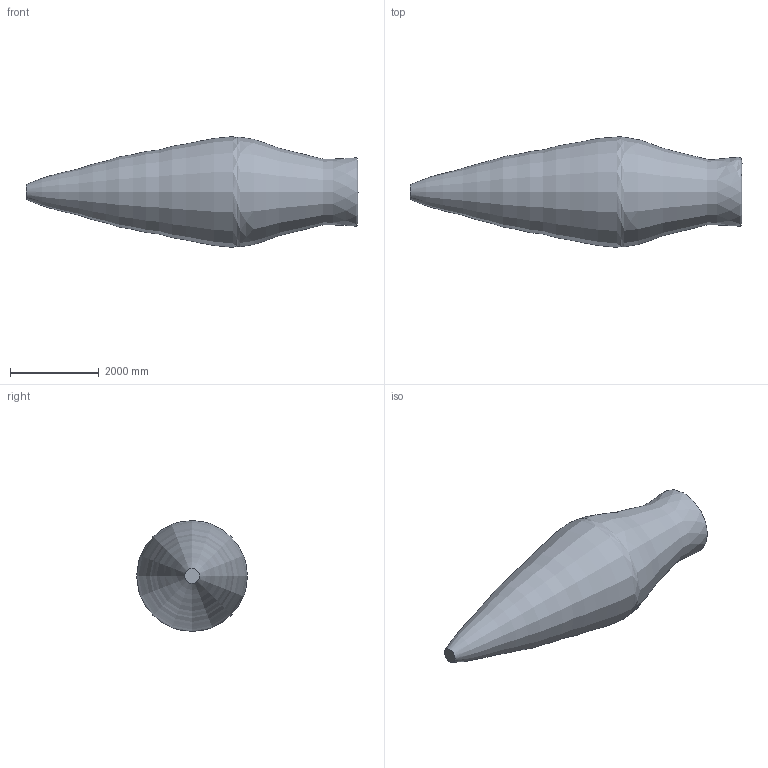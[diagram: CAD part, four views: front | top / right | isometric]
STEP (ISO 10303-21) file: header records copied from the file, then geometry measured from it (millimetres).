
FILE_DESCRIPTION((''),'2;1');
FILE_NAME('C:\Dokumente und Einstellungen\Kramp\Eigene Dateien\Microsonic Nacharbeit 2\restliche Änderungen\STP\Schallfeld Betriebstastw 6000mm Platte.stp','2005-08-11T08:22:52',('Kramp'),(''),'Autodesk Inventor 7','Autodesk Inventor 7','');
FILE_SCHEMA(('AUTOMOTIVE_DESIGN { 1 0 10303 214 1 1 1 1 }'));
Length unit declared in the file: millimetre
Products named in the file (1): Schallfeld Betriebstastw 6000mm Platte
Bounding box: 7477.96 x 2492.46 x 2491.46 mm (x, y, z)
Volume: 18644947004 mm3; surface area: 42652063.9 mm2
Topology: 1 solids, 1 shells, 2 faces, 3 edges, 2 vertices
Faces by surface type: plane 1, bspline 1
Entity records: 328 total; most frequent: CARTESIAN_POINT 275, DIRECTION 6, ORIENTED_EDGE 4, AXIS2_PLACEMENT_3D 3, VERTEX_POINT 2, EDGE_CURVE 2, EDGE_LOOP 2, FACE_OUTER_BOUND 2
